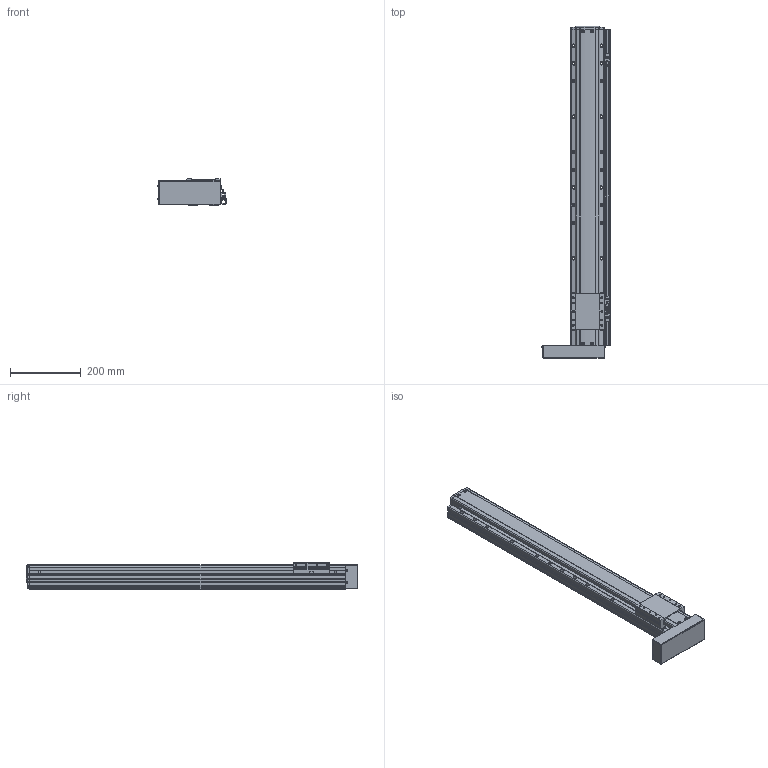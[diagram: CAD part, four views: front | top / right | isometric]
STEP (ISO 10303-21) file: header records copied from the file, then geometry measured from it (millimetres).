
FILE_DESCRIPTION(('STEP AP214'),'1');
FILE_NAME('Z:/Web/3D/PSA95/STP/PSA95-700 (3D)/PSA95ㅁㅁ-700PL+3SR.stp','2014-07-03T00:41:01',(' '),(' '),'Spatial InterOp 3D',' ',' ');
FILE_SCHEMA(('automotive_design'));
Length unit declared in the file: millimetre
Products named in the file (41): BASE; RRCV; 스크루 : Round - M4.0 x 10.0; 너트 : Square - M10.0 x 220.7419; RR1500; FRCV-090; 스크루 : Round - M4.0 x 6.0; SLBL-PA90; MOTOR PLATE COVER; 스크루 : Round - M3.0 x 6.0; EE-SX674; SBK-SX674-352; M3.0 x 6.0; SRL-16x17-380L; SGD-PA95; 스크루 : Round - M3.0 x 8.0
Bounding box: 192.06 x 936.5 x 74 mm (x, y, z)
Volume: 5351390.5 mm3; surface area: 635603.2 mm2
Topology: 41 solids, 41 shells, 2456 faces, 6554 edges, 4202 vertices
Faces by surface type: plane 1412, cylinder 715, cone 229, sphere 62, bspline 24, torus 14
Entity records: 98584 total; most frequent: CARTESIAN_POINT 16376, DIRECTION 13044, ORIENTED_EDGE 12820, EDGE_CURVE 6410, LINE 4356, VECTOR 4356, AXIS2_PLACEMENT_3D 4344, VERTEX_POINT 4202
